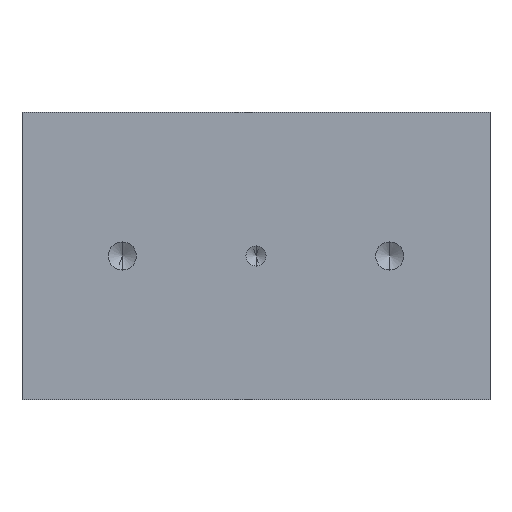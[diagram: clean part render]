
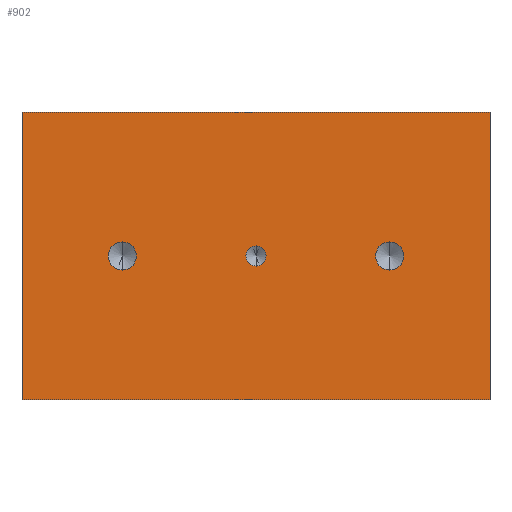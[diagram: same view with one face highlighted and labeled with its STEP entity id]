
A CAD part, front view. The second image highlights one B-rep face of the part: STEP entity #902.
In plain terms, the highlighted planar face has unit normal (0, -1, 0).
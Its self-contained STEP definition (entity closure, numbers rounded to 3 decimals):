
#43 = FACE_BOUND ( 'NONE', #548, .T. ) ;
#44 = FACE_BOUND ( 'NONE', #297, .T. ) ;
#49 = FACE_BOUND ( 'NONE', #554, .T. ) ;
#51 = FACE_OUTER_BOUND ( 'NONE', #553, .T. ) ;
#63 = CARTESIAN_POINT ( 'NONE',  ( 15., 0., 21.5 ) ) ;
#64 = DIRECTION ( 'NONE',  ( 0., -1., 0. ) ) ;
#65 = DIRECTION ( 'NONE',  ( 0., 0., -1. ) ) ;
#101 = PLANE ( 'NONE',  #1373 ) ;
#102 = CARTESIAN_POINT ( 'NONE',  ( 0., 0., 43. ) ) ;
#103 = DIRECTION ( 'NONE',  ( 0., 1., 0. ) ) ;
#104 = DIRECTION ( 'NONE',  ( 0., 0., 1. ) ) ;
#297 = EDGE_LOOP ( 'NONE', ( #586, #587 ) ) ;
#548 = EDGE_LOOP ( 'NONE', ( #588, #589 ) ) ;
#553 = EDGE_LOOP ( 'NONE', ( #641, #642, #643, #644 ) ) ;
#554 = EDGE_LOOP ( 'NONE', ( #639, #640 ) ) ;
#586 = ORIENTED_EDGE ( 'NONE', *, *, #694, .F. ) ;
#587 = ORIENTED_EDGE ( 'NONE', *, *, #1590, .F. ) ;
#588 = ORIENTED_EDGE ( 'NONE', *, *, #705, .F. ) ;
#589 = ORIENTED_EDGE ( 'NONE', *, *, #1597, .F. ) ;
#610 = CARTESIAN_POINT ( 'NONE',  ( 0., 0., 0. ) ) ;
#611 = CARTESIAN_POINT ( 'NONE',  ( 0., 0., 43. ) ) ;
#625 = CARTESIAN_POINT ( 'NONE',  ( 55., 0., 23.6 ) ) ;
#626 = CARTESIAN_POINT ( 'NONE',  ( 55., 0., 19.4 ) ) ;
#630 = CARTESIAN_POINT ( 'NONE',  ( 15., 0., 19.4 ) ) ;
#639 = ORIENTED_EDGE ( 'NONE', *, *, #700, .F. ) ;
#640 = ORIENTED_EDGE ( 'NONE', *, *, #1604, .F. ) ;
#641 = ORIENTED_EDGE ( 'NONE', *, *, #2463, .F. ) ;
#642 = ORIENTED_EDGE ( 'NONE', *, *, #2430, .F. ) ;
#643 = ORIENTED_EDGE ( 'NONE', *, *, #2436, .F. ) ;
#644 = ORIENTED_EDGE ( 'NONE', *, *, #2445, .F. ) ;
#675 = CARTESIAN_POINT ( 'NONE',  ( 35., 0., 21.5 ) ) ;
#694 = EDGE_CURVE ( 'NONE', #782, #772, #1297, .T. ) ;
#700 = EDGE_CURVE ( 'NONE', #823, #822, #1306, .T. ) ;
#705 = EDGE_CURVE ( 'NONE', #827, #784, #1313, .T. ) ;
#708 = DIRECTION ( 'NONE',  ( 0., -1., 0. ) ) ;
#709 = DIRECTION ( 'NONE',  ( 0., 0., -1. ) ) ;
#720 = CARTESIAN_POINT ( 'NONE',  ( 55., 0., 21.5 ) ) ;
#723 = DIRECTION ( 'NONE',  ( 0., -1., 0. ) ) ;
#724 = DIRECTION ( 'NONE',  ( 0., 0., -1. ) ) ;
#762 = VERTEX_POINT ( 'NONE', #984 ) ;
#763 = VERTEX_POINT ( 'NONE', #985 ) ;
#772 = VERTEX_POINT ( 'NONE', #994 ) ;
#782 = VERTEX_POINT ( 'NONE', #1004 ) ;
#784 = VERTEX_POINT ( 'NONE', #1006 ) ;
#807 = VERTEX_POINT ( 'NONE', #610 ) ;
#808 = VERTEX_POINT ( 'NONE', #611 ) ;
#822 = VERTEX_POINT ( 'NONE', #625 ) ;
#823 = VERTEX_POINT ( 'NONE', #626 ) ;
#827 = VERTEX_POINT ( 'NONE', #630 ) ;
#902 = ADVANCED_FACE ( 'NONE', ( #44, #43, #49, #51 ), #101, .F. ) ;
#984 = CARTESIAN_POINT ( 'NONE',  ( 70., 0., 43. ) ) ;
#985 = CARTESIAN_POINT ( 'NONE',  ( 70., 0., 0. ) ) ;
#994 = CARTESIAN_POINT ( 'NONE',  ( 35., 0., 23. ) ) ;
#1004 = CARTESIAN_POINT ( 'NONE',  ( 35., 0., 20. ) ) ;
#1006 = CARTESIAN_POINT ( 'NONE',  ( 15., 0., 23.6 ) ) ;
#1297 = CIRCLE ( 'NONE', #1347, 1.5 ) ;
#1306 = CIRCLE ( 'NONE', #1342, 2.1 ) ;
#1313 = CIRCLE ( 'NONE', #1343, 2.1 ) ;
#1342 = AXIS2_PLACEMENT_3D ( 'NONE', #720, #723, #724 ) ;
#1343 = AXIS2_PLACEMENT_3D ( 'NONE', #63, #64, #65 ) ;
#1347 = AXIS2_PLACEMENT_3D ( 'NONE', #675, #708, #709 ) ;
#1373 = AXIS2_PLACEMENT_3D ( 'NONE', #102, #103, #104 ) ;
#1443 = AXIS2_PLACEMENT_3D ( 'NONE', #1851, #1858, #1859 ) ;
#1447 = AXIS2_PLACEMENT_3D ( 'NONE', #1875, #1876, #1877 ) ;
#1448 = AXIS2_PLACEMENT_3D ( 'NONE', #1883, #1892, #1893 ) ;
#1590 = EDGE_CURVE ( 'NONE', #772, #782, #1909, .T. ) ;
#1597 = EDGE_CURVE ( 'NONE', #784, #827, #1922, .T. ) ;
#1604 = EDGE_CURVE ( 'NONE', #822, #823, #1933, .T. ) ;
#1851 = CARTESIAN_POINT ( 'NONE',  ( 35., 0., 21.5 ) ) ;
#1858 = DIRECTION ( 'NONE',  ( 0., -1., 0. ) ) ;
#1859 = DIRECTION ( 'NONE',  ( 0., 0., -1. ) ) ;
#1875 = CARTESIAN_POINT ( 'NONE',  ( 15., 0., 21.5 ) ) ;
#1876 = DIRECTION ( 'NONE',  ( 0., -1., 0. ) ) ;
#1877 = DIRECTION ( 'NONE',  ( 0., 0., -1. ) ) ;
#1883 = CARTESIAN_POINT ( 'NONE',  ( 55., 0., 21.5 ) ) ;
#1892 = DIRECTION ( 'NONE',  ( 0., -1., 0. ) ) ;
#1893 = DIRECTION ( 'NONE',  ( 0., 0., -1. ) ) ;
#1909 = CIRCLE ( 'NONE', #1443, 1.5 ) ;
#1922 = CIRCLE ( 'NONE', #1447, 2.1 ) ;
#1933 = CIRCLE ( 'NONE', #1448, 2.1 ) ;
#1944 = LINE ( 'NONE', #1991, #1950 ) ;
#1950 = VECTOR ( 'NONE', #1992, 1000. ) ;
#1963 = LINE ( 'NONE', #2004, #1964 ) ;
#1964 = VECTOR ( 'NONE', #2005, 1000. ) ;
#1991 = CARTESIAN_POINT ( 'NONE',  ( 0., 0., 0. ) ) ;
#1992 = DIRECTION ( 'NONE',  ( -1., 0., 0. ) ) ;
#2004 = CARTESIAN_POINT ( 'NONE',  ( 70., 0., 0. ) ) ;
#2005 = DIRECTION ( 'NONE',  ( 0., 0., -1. ) ) ;
#2027 = CARTESIAN_POINT ( 'NONE',  ( 0., 0., 43. ) ) ;
#2028 = DIRECTION ( 'NONE',  ( 1., 0., 0. ) ) ;
#2043 = LINE ( 'NONE', #2027, #2046 ) ;
#2046 = VECTOR ( 'NONE', #2028, 1000. ) ;
#2078 = LINE ( 'NONE', #2132, #2079 ) ;
#2079 = VECTOR ( 'NONE', #2133, 1000. ) ;
#2132 = CARTESIAN_POINT ( 'NONE',  ( 0., 0., 0. ) ) ;
#2133 = DIRECTION ( 'NONE',  ( 0., 0., 1. ) ) ;
#2430 = EDGE_CURVE ( 'NONE', #763, #807, #1944, .T. ) ;
#2436 = EDGE_CURVE ( 'NONE', #762, #763, #1963, .T. ) ;
#2445 = EDGE_CURVE ( 'NONE', #808, #762, #2043, .T. ) ;
#2463 = EDGE_CURVE ( 'NONE', #807, #808, #2078, .T. ) ;
